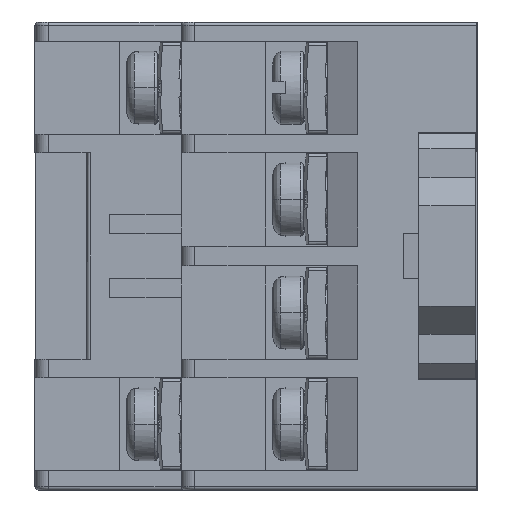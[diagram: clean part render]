
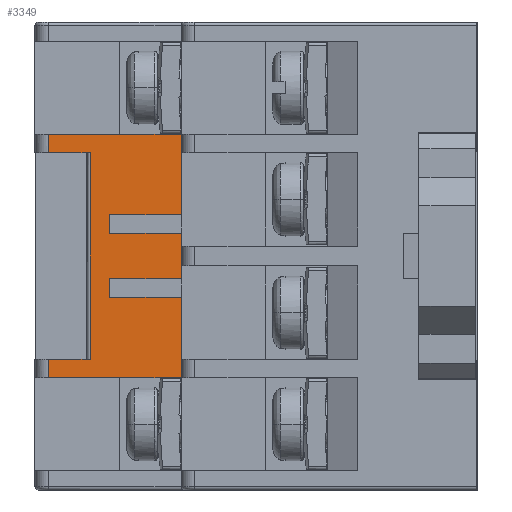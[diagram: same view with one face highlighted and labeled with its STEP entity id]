
A CAD part, left-side view. The second image highlights one B-rep face of the part: STEP entity #3349.
In plain terms, the highlighted planar face has unit normal (-1, 0, 0).
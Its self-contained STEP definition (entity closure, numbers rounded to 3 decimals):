
#256 = LINE ( 'NONE', #54160, #63033 ) ;
#272 = CARTESIAN_POINT ( 'NONE',  ( -15.268, 3.611, -7.95 ) ) ;
#495 = LINE ( 'NONE', #98582, #81618 ) ;
#855 = CARTESIAN_POINT ( 'NONE',  ( -15.268, 13.161, 6.759 ) ) ;
#856 = EDGE_CURVE ( 'NONE', #38097, #84940, #16560, .T. ) ;
#931 = ORIENTED_EDGE ( 'NONE', *, *, #72519, .T. ) ;
#1163 = CARTESIAN_POINT ( 'NONE',  ( -15.268, 3.611, 7.95 ) ) ;
#2361 = VERTEX_POINT ( 'NONE', #24857 ) ;
#3252 = LINE ( 'NONE', #11512, #21719 ) ;
#3349 = ADVANCED_FACE ( 'NONE', ( #28420 ), #15751, .F. ) ;
#3475 = VECTOR ( 'NONE', #86234, 1000. ) ;
#3658 = LINE ( 'NONE', #88908, #84794 ) ;
#3844 = DIRECTION ( 'NONE',  ( 0., -1., 0. ) ) ;
#7067 = DIRECTION ( 'NONE',  ( 0., 0., -1. ) ) ;
#7313 = EDGE_CURVE ( 'NONE', #88769, #81387, #3252, .T. ) ;
#7457 = EDGE_CURVE ( 'NONE', #95588, #95142, #30318, .T. ) ;
#7935 = CARTESIAN_POINT ( 'NONE',  ( -15.268, 12.261, 15.3 ) ) ;
#8981 = EDGE_CURVE ( 'NONE', #90431, #2361, #3658, .T. ) ;
#10924 = CARTESIAN_POINT ( 'NONE',  ( -15.268, 1.611, 2.2 ) ) ;
#11306 = DIRECTION ( 'NONE',  ( 0., 0., -1. ) ) ;
#11432 = CARTESIAN_POINT ( 'NONE',  ( -15.268, 8.261, -2.2 ) ) ;
#11512 = CARTESIAN_POINT ( 'NONE',  ( -15.268, 3.611, -7.95 ) ) ;
#11869 = VECTOR ( 'NONE', #11306, 1000. ) ;
#14028 = ORIENTED_EDGE ( 'NONE', *, *, #32848, .T. ) ;
#14209 = DIRECTION ( 'NONE',  ( 0., 1., 0. ) ) ;
#14565 = CARTESIAN_POINT ( 'NONE',  ( -15.268, 8.261, -2.2 ) ) ;
#15751 = PLANE ( 'NONE',  #39866 ) ;
#16331 = CARTESIAN_POINT ( 'NONE',  ( -15.268, 3.611, -2.7 ) ) ;
#16560 = LINE ( 'NONE', #39011, #39953 ) ;
#18751 = CARTESIAN_POINT ( 'NONE',  ( -15.268, 13.161, -6.759 ) ) ;
#19274 = LINE ( 'NONE', #19326, #97916 ) ;
#19326 = CARTESIAN_POINT ( 'NONE',  ( -15.268, 8.261, 2.2 ) ) ;
#20525 = DIRECTION ( 'NONE',  ( 0., 0., -1. ) ) ;
#20702 = EDGE_CURVE ( 'NONE', #22083, #2361, #82190, .T. ) ;
#21719 = VECTOR ( 'NONE', #66528, 1000. ) ;
#22083 = VERTEX_POINT ( 'NONE', #59889 ) ;
#24570 = VECTOR ( 'NONE', #73756, 1000. ) ;
#24857 = CARTESIAN_POINT ( 'NONE',  ( -15.268, 1.611, -2.2 ) ) ;
#25638 = VECTOR ( 'NONE', #64292, 1000. ) ;
#26012 = CARTESIAN_POINT ( 'NONE',  ( -15.268, 8.261, -2.7 ) ) ;
#26064 = VERTEX_POINT ( 'NONE', #51625 ) ;
#26842 = LINE ( 'NONE', #7935, #3475 ) ;
#27996 = VERTEX_POINT ( 'NONE', #34729 ) ;
#28049 = ORIENTED_EDGE ( 'NONE', *, *, #49110, .F. ) ;
#28420 = FACE_OUTER_BOUND ( 'NONE', #63681, .T. ) ;
#30318 = LINE ( 'NONE', #58375, #11869 ) ;
#31555 = DIRECTION ( 'NONE',  ( 0., 1., 0. ) ) ;
#32398 = EDGE_CURVE ( 'NONE', #51244, #26064, #93870, .T. ) ;
#32848 = EDGE_CURVE ( 'NONE', #95588, #98635, #495, .T. ) ;
#34464 = LINE ( 'NONE', #83366, #55382 ) ;
#34729 = CARTESIAN_POINT ( 'NONE',  ( -15.268, 12.261, -6.759 ) ) ;
#37540 = ORIENTED_EDGE ( 'NONE', *, *, #67937, .F. ) ;
#38097 = VERTEX_POINT ( 'NONE', #26012 ) ;
#38662 = ORIENTED_EDGE ( 'NONE', *, *, #66478, .F. ) ;
#39011 = CARTESIAN_POINT ( 'NONE',  ( -15.268, 8.261, -2.7 ) ) ;
#39331 = CARTESIAN_POINT ( 'NONE',  ( -15.268, 12.261, 6.759 ) ) ;
#39637 = VECTOR ( 'NONE', #85705, 1000. ) ;
#39866 = AXIS2_PLACEMENT_3D ( 'NONE', #70788, #78617, #31555 ) ;
#39953 = VECTOR ( 'NONE', #101866, 1000. ) ;
#40205 = LINE ( 'NONE', #11432, #63592 ) ;
#46266 = ORIENTED_EDGE ( 'NONE', *, *, #55750, .F. ) ;
#46294 = CARTESIAN_POINT ( 'NONE',  ( -15.268, 12.261, 15.3 ) ) ;
#47633 = CARTESIAN_POINT ( 'NONE',  ( -15.268, 9.561, 6.759 ) ) ;
#47644 = ORIENTED_EDGE ( 'NONE', *, *, #78322, .T. ) ;
#48205 = CARTESIAN_POINT ( 'NONE',  ( -15.268, 12.261, -7.95 ) ) ;
#48480 = CARTESIAN_POINT ( 'NONE',  ( -15.268, 3.611, 15.3 ) ) ;
#49110 = EDGE_CURVE ( 'NONE', #51244, #98635, #34464, .T. ) ;
#49958 = ORIENTED_EDGE ( 'NONE', *, *, #20702, .T. ) ;
#51244 = VERTEX_POINT ( 'NONE', #1163 ) ;
#51544 = DIRECTION ( 'NONE',  ( 0., -1., 0. ) ) ;
#51625 = CARTESIAN_POINT ( 'NONE',  ( -15.268, 12.261, 7.95 ) ) ;
#54107 = DIRECTION ( 'NONE',  ( 0., -1., 0. ) ) ;
#54160 = CARTESIAN_POINT ( 'NONE',  ( -15.268, 9.561, 15.3 ) ) ;
#54394 = ORIENTED_EDGE ( 'NONE', *, *, #7313, .F. ) ;
#54696 = CARTESIAN_POINT ( 'NONE',  ( -15.268, 3.611, 2.7 ) ) ;
#55382 = VECTOR ( 'NONE', #20525, 1000. ) ;
#55750 = EDGE_CURVE ( 'NONE', #27996, #59069, #66473, .T. ) ;
#55888 = DIRECTION ( 'NONE',  ( 0., -1., 0. ) ) ;
#58375 = CARTESIAN_POINT ( 'NONE',  ( -15.268, 8.261, 2.2 ) ) ;
#59069 = VERTEX_POINT ( 'NONE', #73494 ) ;
#59889 = CARTESIAN_POINT ( 'NONE',  ( -15.268, 8.261, -2.2 ) ) ;
#61299 = CARTESIAN_POINT ( 'NONE',  ( -15.268, 3.611, 7.95 ) ) ;
#61384 = VECTOR ( 'NONE', #54107, 1000. ) ;
#63033 = VECTOR ( 'NONE', #7067, 1000. ) ;
#63592 = VECTOR ( 'NONE', #66453, 1000. ) ;
#63681 = EDGE_LOOP ( 'NONE', ( #14028, #28049, #79248, #70132, #931, #47644, #46266, #95193, #54394, #38662, #88503, #37540, #49958, #77825, #91822, #100173 ) ) ;
#64292 = DIRECTION ( 'NONE',  ( 0., 0., -1. ) ) ;
#66453 = DIRECTION ( 'NONE',  ( 0., 0., -1. ) ) ;
#66473 = LINE ( 'NONE', #18751, #24570 ) ;
#66478 = EDGE_CURVE ( 'NONE', #84940, #88769, #93301, .T. ) ;
#66528 = DIRECTION ( 'NONE',  ( 0., 1., 0. ) ) ;
#66747 = EDGE_CURVE ( 'NONE', #27996, #81387, #26842, .T. ) ;
#67937 = EDGE_CURVE ( 'NONE', #22083, #38097, #40205, .T. ) ;
#67970 = EDGE_CURVE ( 'NONE', #95142, #90431, #19274, .T. ) ;
#70132 = ORIENTED_EDGE ( 'NONE', *, *, #78342, .T. ) ;
#70788 = CARTESIAN_POINT ( 'NONE',  ( -15.268, 9.761, 15.3 ) ) ;
#72519 = EDGE_CURVE ( 'NONE', #76869, #102040, #98213, .T. ) ;
#73021 = VECTOR ( 'NONE', #14209, 1000. ) ;
#73494 = CARTESIAN_POINT ( 'NONE',  ( -15.268, 9.561, -6.759 ) ) ;
#73756 = DIRECTION ( 'NONE',  ( 0., -1., 0. ) ) ;
#76869 = VERTEX_POINT ( 'NONE', #39331 ) ;
#77825 = ORIENTED_EDGE ( 'NONE', *, *, #8981, .F. ) ;
#78322 = EDGE_CURVE ( 'NONE', #102040, #59069, #256, .T. ) ;
#78342 = EDGE_CURVE ( 'NONE', #26064, #76869, #81383, .T. ) ;
#78617 = DIRECTION ( 'NONE',  ( 1., 0., 0. ) ) ;
#79248 = ORIENTED_EDGE ( 'NONE', *, *, #32398, .T. ) ;
#79778 = VECTOR ( 'NONE', #55888, 1000. ) ;
#80599 = CARTESIAN_POINT ( 'NONE',  ( -15.268, 8.261, 2.7 ) ) ;
#81383 = LINE ( 'NONE', #46294, #39637 ) ;
#81387 = VERTEX_POINT ( 'NONE', #48205 ) ;
#81618 = VECTOR ( 'NONE', #51544, 1000. ) ;
#82190 = LINE ( 'NONE', #14565, #61384 ) ;
#83366 = CARTESIAN_POINT ( 'NONE',  ( -15.268, 3.611, 15.3 ) ) ;
#84794 = VECTOR ( 'NONE', #96806, 1000. ) ;
#84940 = VERTEX_POINT ( 'NONE', #16331 ) ;
#85705 = DIRECTION ( 'NONE',  ( 0., 0., -1. ) ) ;
#86234 = DIRECTION ( 'NONE',  ( 0., 0., -1. ) ) ;
#88503 = ORIENTED_EDGE ( 'NONE', *, *, #856, .F. ) ;
#88769 = VERTEX_POINT ( 'NONE', #272 ) ;
#88908 = CARTESIAN_POINT ( 'NONE',  ( -15.268, 1.611, -2.2 ) ) ;
#90431 = VERTEX_POINT ( 'NONE', #10924 ) ;
#91822 = ORIENTED_EDGE ( 'NONE', *, *, #67970, .F. ) ;
#93301 = LINE ( 'NONE', #48480, #25638 ) ;
#93870 = LINE ( 'NONE', #61299, #73021 ) ;
#95142 = VERTEX_POINT ( 'NONE', #97117 ) ;
#95193 = ORIENTED_EDGE ( 'NONE', *, *, #66747, .T. ) ;
#95588 = VERTEX_POINT ( 'NONE', #80599 ) ;
#96806 = DIRECTION ( 'NONE',  ( 0., 0., -1. ) ) ;
#97117 = CARTESIAN_POINT ( 'NONE',  ( -15.268, 8.261, 2.2 ) ) ;
#97916 = VECTOR ( 'NONE', #3844, 1000. ) ;
#98213 = LINE ( 'NONE', #855, #79778 ) ;
#98582 = CARTESIAN_POINT ( 'NONE',  ( -15.268, 8.261, 2.7 ) ) ;
#98635 = VERTEX_POINT ( 'NONE', #54696 ) ;
#100173 = ORIENTED_EDGE ( 'NONE', *, *, #7457, .F. ) ;
#101866 = DIRECTION ( 'NONE',  ( 0., -1., 0. ) ) ;
#102040 = VERTEX_POINT ( 'NONE', #47633 ) ;
